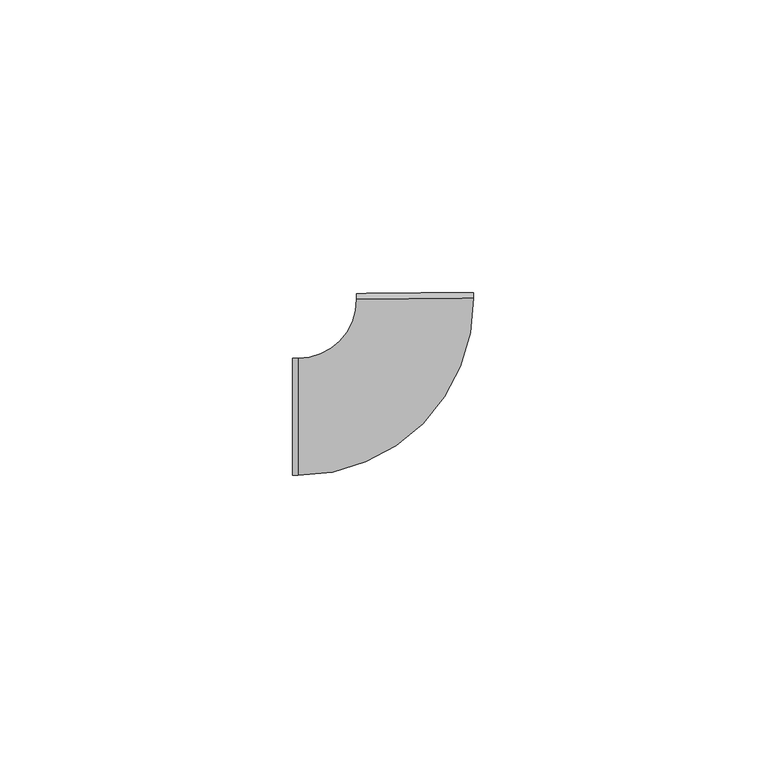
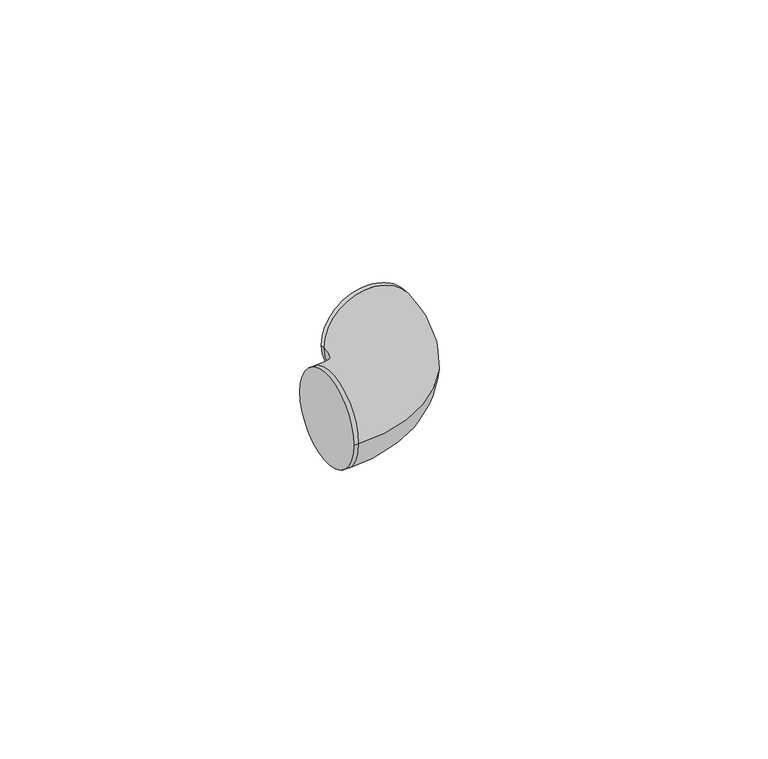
"""IFC4 building model written with IfcOpenShell, lengths in millimetres: cable carrier fitting geometry, ADSK_Поворот_Минимальный размер : Неспецифицируемый."""

from ifc_helpers import new_model, si_unit, point, frame, origin, place, context, project, spatial, circle_curve, ellipse_curve, trimmed, source, transform, mapped, element, save
from ifc_brep_helpers import plane_surface, cylinder_surface, revolved_surface, advanced_brep


def cable_carrier_fitting_99456837(model_context):
    return source(origin(), model_context, "Body", "AdvancedBrep", [
        advanced_brep(
        [(-21.1788864, -10.0, 0.0), (-21.1788864, 10.0, 0.0), (-20.1788864, -10.0, 0.0), (-20.1788864, 10.0, 0.0), (-10.1792829, 20.0890432, 0.0), (9.8199242, 20.2671297, 0.0), (9.8110199, 21.2670901, 0.0), (-10.1881872, 21.0890036, 0.0)],
        [
            (0, 1, circle_curve(frame((-21.1788864, 0.0, 0.0), z_axis=(-1.0, -4.92260399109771e-12, 0.0), x_axis=(-4.92260399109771e-12, 1.0, 0.0)), 10.0)),
            (1, 0, circle_curve(frame((-21.1788864, 0.0, 0.0), z_axis=(-1.0, -4.92260399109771e-12, 0.0), x_axis=(-4.92260399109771e-12, 1.0, 0.0)), 10.0)),
            (0, 2),
            (2, 3, circle_curve(frame((-20.1788864, 0.0, 0.0), z_axis=(-1.0, -4.92260399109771e-12, 0.0), x_axis=(-4.92260399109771e-12, 1.0, 0.0)), 10.0)),
            (3, 1),
            (3, 2, circle_curve(frame((-20.1788864, 0.0, 0.0), z_axis=(-1.0, -4.92260399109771e-12, 0.0), x_axis=(-4.92260399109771e-12, 1.0, 0.0)), 10.0)),
            (4, 3, circle_curve(frame((-20.1788864, 20.0, 0.0), z_axis=(0.0, 0.0, -1.0), x_axis=(0.0, -1.0, 0.0)), 10.0)),
            (2, 5, circle_curve(frame((-20.1788864, 20.0, 0.0), z_axis=(0.0, 0.0, 1.0), x_axis=(0.0, -1.0, 0.0)), 30.0)),
            (5, 4, circle_curve(frame((-0.1796793, 20.1780865, 0.0), z_axis=(0.0089043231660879, -0.9999603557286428, 0.0), x_axis=(-0.9999603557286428, -0.0089043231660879, 0.0)), 10.0)),
            (4, 5, circle_curve(frame((-0.1796793, 20.1780865, 0.0), z_axis=(0.008904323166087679, -0.9999603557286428, 0.0), x_axis=(-0.9999603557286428, -0.008904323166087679, 0.0)), 10.0)),
            (6, 7, circle_curve(frame((-0.1885836, 21.1780468, 0.0), z_axis=(-0.008904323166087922, 0.9999603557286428, 0.0), x_axis=(-0.9999603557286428, -0.008904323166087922, 0.0)), 10.0)),
            (7, 6, circle_curve(frame((-0.1885836, 21.1780468, 0.0), z_axis=(-0.008904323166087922, 0.9999603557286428, 0.0), x_axis=(-0.9999603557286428, -0.008904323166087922, 0.0)), 10.0)),
            (5, 6),
            (7, 4),
        ],
        [
            plane_surface(frame((-21.1788864, 0.0, 0.0), z_axis=(-1.0, -4.92260399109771e-12, 0.0), x_axis=(0.0, 0.0, 1.0))),
            cylinder_surface(frame((-21.1788864, 0.0, 0.0), z_axis=(-1.0, -4.92260399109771e-12, 0.0), x_axis=(-4.92260399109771e-12, 1.0, 0.0)), 10.0),
            revolved_surface(trimmed(ellipse_curve(frame((-20.1788864, 0.0, 0.0), z_axis=(-1.0, 0.0, 0.0), x_axis=(0.0, 1.0, 0.0)), 10.0, 10.0), [point((-20.1788864, -10.0, 0.0))], [point((-20.1788864, 10.0, 0.0))], True, "CARTESIAN"), (-20.1788864, 20.0, 0.0), (0.0, 0.0, 1.0)),
            revolved_surface(trimmed(ellipse_curve(frame((-20.1788864, 0.0, 0.0), z_axis=(-1.0, 0.0, 0.0), x_axis=(0.0, 1.0, 0.0)), 10.0, 10.0), [point((-20.1788864, 10.0, 0.0))], [point((-20.1788864, -10.0, 0.0))], True, "CARTESIAN"), (-20.1788864, 20.0, 0.0), (0.0, 0.0, 1.0)),
            plane_surface(frame((-0.1885836, 21.1780468, 0.0), z_axis=(-0.008904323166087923, 0.9999603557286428, 0.0), x_axis=(0.0, 0.0, 1.0))),
            cylinder_surface(frame((-0.1796793, 20.1780865, 0.0), z_axis=(0.008904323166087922, -0.9999603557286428, 0.0), x_axis=(-0.9999603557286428, -0.008904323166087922, 0.0)), 10.0),
        ],
        [
            (0, [[1, 2]]),
            (1, [[-1, 3, 4, 5]]),
            (1, [[-2, -5, 6, -3]]),
            (2, [[7, -4, 8, 9]]),
            (3, [[-8, -6, -7, 10]]),
            (4, [[11, 12]]),
            (5, [[-9, 13, -12, 14]]),
            (5, [[-10, -14, -11, -13]]),
        ],
    ),
    ])


if __name__ == "__main__":
    model = new_model("IFC4")
    model_context = context("Model", 3, world=origin())
    ifc_project = project(units=[si_unit("LENGTHUNIT", "METRE", prefix="MILLI")], contexts=[model_context])
    site = spatial("IfcSite", under=ifc_project)
    building = spatial("IfcBuilding", under=site)
    placement = place(None, origin())
    cable_carrier_fitting_shape = cable_carrier_fitting_99456837(model_context)
    element("IfcCableCarrierFitting", 1, ObjectType="ADSK_Поворот_Минимальный размер : Неспецифицируемый", at=placement, inside=building, context=model_context, shape_type="MappedRepresentation", body=[
        mapped(cable_carrier_fitting_shape, transform((0.0, 0.0, 0.0), x_axis=(1.0, 0.0, 0.0), y_axis=(0.0, 1.0, 0.0), z_axis=(0.0, 0.0, 1.0))),
    ])
    save(model, "model.ifc")
